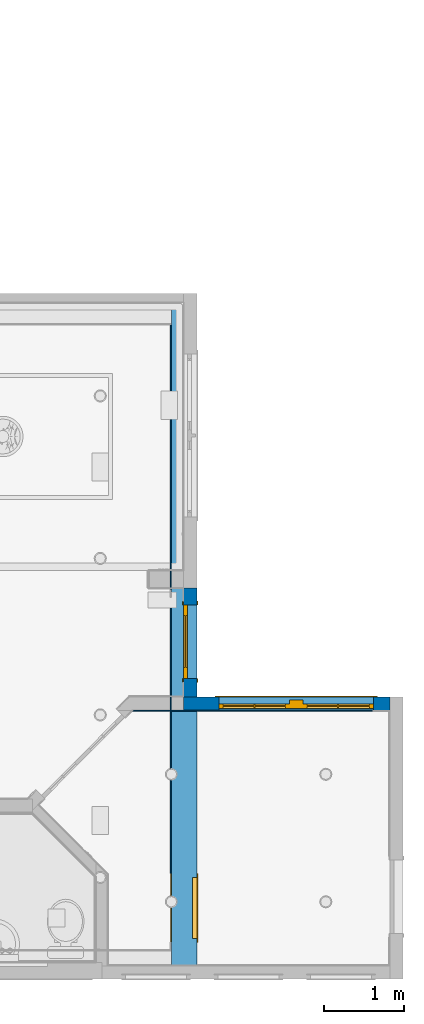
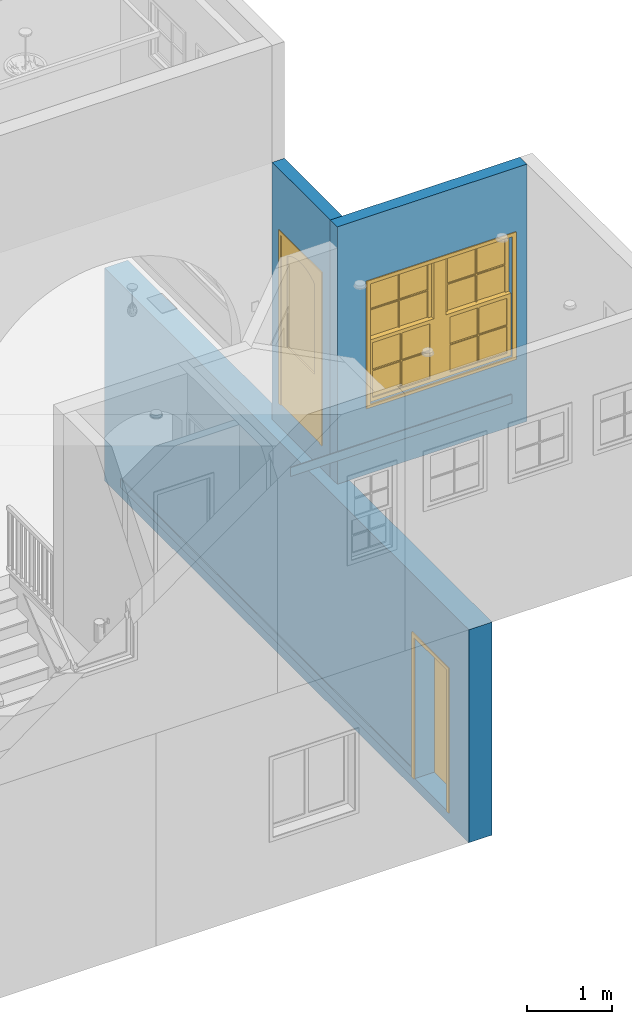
# One storey, part 15 of 81: 5 walls, 2 doors, 1 window, 3 openings.
"""IFC2X3 building model written with IfcOpenShell, lengths in feet."""

from ifc_helpers import new_model, entity, si_unit, converted_unit, derived_unit, direction, frame, frame_2d, origin, origin_2d_with_axis, place, context, subcontext, project, spatial, polyline, circle_curve, parameter, trimmed, segment, composite_curve, rectangle, outline, extrude, source, transform, mapped, material, material_list, layer, layer_set, layer_usage, type_object, type_shapes, element, fill, save


model = new_model("IFC2X3")

# Units and contexts
model_context = context("Model", 3, precision=0.0001, world=origin(), true_north=direction((6.12303176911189e-17, 1.0)))
body_context = subcontext(model_context, "Body", "Model", "MODEL_VIEW")
ifc_project = project(units=[converted_unit("LENGTHUNIT", "FOOT", entity("IfcRatioMeasure", 0.3048), si_unit("LENGTHUNIT", "METRE"), dimensions=[1, 0, 0, 0, 0, 0, 0]), converted_unit("AREAUNIT", "SQUARE FOOT", entity("IfcRatioMeasure", 0.09290304), si_unit("AREAUNIT", "SQUARE_METRE"), dimensions=[2, 0, 0, 0, 0, 0, 0]), converted_unit("VOLUMEUNIT", "CUBIC FOOT", entity("IfcRatioMeasure", 0.028316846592), si_unit("VOLUMEUNIT", "CUBIC_METRE"), dimensions=[3, 0, 0, 0, 0, 0, 0]), converted_unit("PLANEANGLEUNIT", "DEGREE", entity("IfcRatioMeasure", 0.0174532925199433), si_unit("PLANEANGLEUNIT", "RADIAN"), dimensions=[0, 0, 0, 0, 0, 0, 0]), si_unit("MASSUNIT", "GRAM", prefix="KILO"), derived_unit("MASSDENSITYUNIT", [(si_unit("MASSUNIT", "GRAM", prefix="KILO"), 1), (si_unit("LENGTHUNIT", "METRE"), -3)]), derived_unit("MOMENTOFINERTIAUNIT", [(si_unit("LENGTHUNIT", "METRE"), 4)]), si_unit("TIMEUNIT", "SECOND"), si_unit("FREQUENCYUNIT", "HERTZ"), si_unit("THERMODYNAMICTEMPERATUREUNIT", "DEGREE_CELSIUS"), derived_unit("THERMALTRANSMITTANCEUNIT", [(si_unit("MASSUNIT", "GRAM", prefix="KILO"), 1), (si_unit("THERMODYNAMICTEMPERATUREUNIT", "KELVIN"), -1), (si_unit("TIMEUNIT", "SECOND"), -3)]), derived_unit("VOLUMETRICFLOWRATEUNIT", [(si_unit("LENGTHUNIT", "METRE"), 3), (si_unit("TIMEUNIT", "SECOND"), -1)]), si_unit("ELECTRICCURRENTUNIT", "AMPERE"), si_unit("ELECTRICVOLTAGEUNIT", "VOLT"), si_unit("POWERUNIT", "WATT"), si_unit("FORCEUNIT", "NEWTON"), si_unit("ILLUMINANCEUNIT", "LUX"), si_unit("LUMINOUSFLUXUNIT", "LUMEN"), si_unit("LUMINOUSINTENSITYUNIT", "CANDELA"), derived_unit("USERDEFINED", [(si_unit("MASSUNIT", "GRAM", prefix="KILO"), -1), (si_unit("LENGTHUNIT", "METRE"), -2), (si_unit("TIMEUNIT", "SECOND"), 3), (si_unit("LUMINOUSFLUXUNIT", "LUMEN"), 1)]), derived_unit("LINEARVELOCITYUNIT", [(si_unit("LENGTHUNIT", "METRE"), 1), (si_unit("TIMEUNIT", "SECOND"), -1)]), si_unit("PRESSUREUNIT", "PASCAL"), derived_unit("USERDEFINED", [(si_unit("LENGTHUNIT", "METRE"), -2), (si_unit("MASSUNIT", "GRAM", prefix="KILO"), 1), (si_unit("TIMEUNIT", "SECOND"), -2)]), derived_unit("LINEARFORCEUNIT", [(si_unit("MASSUNIT", "GRAM", prefix="KILO"), 1), (si_unit("LENGTHUNIT", "METRE"), 1), (si_unit("TIMEUNIT", "SECOND"), -2), (si_unit("LENGTHUNIT", "METRE"), -1)]), derived_unit("PLANARFORCEUNIT", [(si_unit("MASSUNIT", "GRAM", prefix="KILO"), 1), (si_unit("LENGTHUNIT", "METRE"), 1), (si_unit("TIMEUNIT", "SECOND"), -2), (si_unit("LENGTHUNIT", "METRE"), -2)])], contexts=[model_context])

# Site, building, storey
site_placement = place(None, origin())
site = spatial("IfcSite", under=ifc_project, at=site_placement, Name="Default", CompositionType="ELEMENT")
building_placement = place(site_placement, origin())
building = spatial("IfcBuilding", under=site, at=building_placement, CompositionType="ELEMENT")
storey_placement = place(building_placement, origin())
storey = spatial("IfcBuildingStorey", under=building, at=storey_placement, Name="First floor", CompositionType="ELEMENT", Elevation=0.0)

# Wall, opening, window
ifc_material_1 = material(Name="Default New Material")
ifc_layer_1 = layer(ifc_material_1, 0.541666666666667)
ifc_layer_set_1 = layer_set([ifc_layer_1], Name="Basic Wall:Wall_6.5\"")
ifc_layer_usage_1 = layer_usage(ifc_layer_set_1, "AXIS2", "POSITIVE", -0.270833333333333)
wall_type_1 = type_object("IfcWallType", Name="Basic Wall:Wall_6.5\"", PredefinedType="STANDARD", material=ifc_layer_set_1)
wall_1_placement = place(storey_placement, frame((43.5833333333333, 11.2916666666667, 9.54166666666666), z_axis=(0.0, 0.0, 1.0), x_axis=(-1.0, 0.0, 0.0)))
wall_1 = element("IfcWallStandardCase", 1, at=wall_1_placement, inside=storey, type_object=wall_type_1, material=ifc_layer_usage_1, Name="Basic Wall:Wall_6.5\"", ObjectType="Basic Wall:Wall_6.5\"", context=body_context, shape_type="SweptSolid", body=[
    extrude(rectangle(XDim=8.45833333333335, YDim=0.541666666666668, at=frame_2d((4.22916666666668, 2.77555756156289e-17), x_axis=(-1.0, 0.0))), origin(), (0.0, 0.0, 1.0), 12.125),
])
opening_1_placement = place(wall_1_placement, frame((7.0, 0.270833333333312, 3.29166666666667)))
opening_1 = element("IfcOpeningElement", 2, at=opening_1_placement, cuts=wall_1, Name="Window_11:6'-4\" X 5'-8\":1", ObjectType="Opening", context=body_context, shape_type="SweptSolid", body=[
    extrude(rectangle(XDim=5.66666666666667, YDim=6.33333333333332, at=frame_2d((2.83333333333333, 3.16666666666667), x_axis=(-1.0, 0.0))), frame((0.0, 0.0, 0.0), z_axis=(0.0, -1.0, 0.0), x_axis=(0.0, 0.0, 1.0)), (0.0, 0.0, 1.0), 0.541666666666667),
])
ifc_material_2 = material(Name="Glass")
ifc_material_list_1 = material_list([ifc_material_2, ifc_material_1])
ifc_material_3 = material(Name="Sash")
ifc_material_list_2 = material_list([ifc_material_1, ifc_material_2, ifc_material_1, ifc_material_3])
window_style = type_object("IfcWindowStyle", Name="Window_11:6'-4\" X 5'-8\"", ConstructionType="NOTDEFINED", OperationType="NOTDEFINED", ParameterTakesPrecedence=False, Sizeable=False, material=ifc_material_list_2)
shared_shape_1 = source(origin(), body_context, "Body", "SweptSolid", [
    extrude(rectangle(XDim=1.26041666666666, YDim=0.0435871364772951, at=frame_2d((1.11022302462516e-16, 0.0), x_axis=(1.0, 0.0))), frame((5.53645833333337, 0.334293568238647, 4.23437499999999)), (0.0, 0.0, 1.0), 1.26562500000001),
    extrude(rectangle(XDim=1.26041666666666, YDim=0.0435871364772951, at=frame_2d((2.22044604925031e-16, 0.0), x_axis=(1.0, 0.0))), frame((0.796875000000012, 0.334293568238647, 4.234375)), (0.0, 0.0, 1.0), 1.26562500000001),
    extrude(rectangle(XDim=1.26041666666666, YDim=0.0435871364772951, at=origin_2d_with_axis()), frame((2.09895833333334, 0.334293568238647, 4.23437499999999)), (0.0, 0.0, 1.0), 1.26562500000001),
    extrude(rectangle(XDim=1.26041666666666, YDim=0.0435871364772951, at=origin_2d_with_axis()), frame((4.23437500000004, 0.334293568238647, 4.23437499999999)), (0.0, 0.0, 1.0), 1.26562500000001),
    extrude(rectangle(XDim=1.26041666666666, YDim=0.0435871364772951, at=frame_2d((1.11022302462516e-16, 0.0), x_axis=(1.0, 0.0))), frame((5.53645833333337, 0.334293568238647, 2.92708333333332)), (0.0, 0.0, 1.0), 1.265625),
    extrude(rectangle(XDim=1.26041666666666, YDim=0.0435871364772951, at=origin_2d_with_axis()), frame((0.796875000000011, 0.334293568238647, 2.92708333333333)), (0.0, 0.0, 1.0), 1.265625),
    extrude(rectangle(XDim=1.26041666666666, YDim=0.0435871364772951, at=origin_2d_with_axis()), frame((2.09895833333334, 0.334293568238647, 2.92708333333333)), (0.0, 0.0, 1.0), 1.265625),
    extrude(rectangle(XDim=1.26041666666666, YDim=0.0435871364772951, at=origin_2d_with_axis()), frame((4.23437500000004, 0.334293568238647, 2.92708333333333)), (0.0, 0.0, 1.0), 1.265625),
    extrude(outline(polyline([(-1.45312500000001, -1.44791666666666), (1.45312500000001, -1.44791666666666), (1.45312500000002, 1.44791666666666), (-1.45312500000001, 1.44791666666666), (-1.45312500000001, -1.44791666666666)]), holes=[polyline([(-0.020833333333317, -0.0208333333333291), (-0.0208333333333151, -1.28124999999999), (-1.28645833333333, -1.28124999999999), (-1.28645833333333, -0.0208333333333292), (-0.020833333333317, -0.0208333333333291)]), polyline([(-1.28645833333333, 0.0208333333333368), (-1.28645833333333, 1.28125), (-0.020833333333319, 1.28125), (-0.0208333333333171, 0.020833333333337), (-1.28645833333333, 0.0208333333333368)]), polyline([(1.28645833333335, 0.0208333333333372), (0.020833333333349, 0.0208333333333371), (0.0208333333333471, 1.28125), (1.28645833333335, 1.28125), (1.28645833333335, 0.0208333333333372)]), polyline([(0.020833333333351, -1.28124999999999), (0.0208333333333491, -0.020833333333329), (1.28645833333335, -0.0208333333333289), (1.28645833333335, -1.28124999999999), (0.020833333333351, -1.28124999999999)])]), frame((4.8854166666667, 0.416666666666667, 4.21354166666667), z_axis=(0.0, -1.0, 0.0), x_axis=(0.0, 0.0, -1.0)), (0.0, 0.0, 1.0), 0.166666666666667),
    extrude(outline(polyline([(-1.44791666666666, -1.45312500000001), (1.44791666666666, -1.45312500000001), (1.44791666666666, 1.45312500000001), (-1.44791666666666, 1.45312500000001), (-1.44791666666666, -1.45312500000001)]), holes=[polyline([(0.020833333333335, -1.28645833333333), (0.020833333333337, -0.0208333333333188), (1.28125, -0.0208333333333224), (1.28125, -1.28645833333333), (0.020833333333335, -1.28645833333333)]), polyline([(0.0208333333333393, 1.28645833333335), (1.28125, 1.28645833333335), (1.28125, 0.0208333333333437), (0.0208333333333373, 0.0208333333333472), (0.0208333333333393, 1.28645833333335)]), polyline([(-1.28124999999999, 0.0208333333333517), (-1.28124999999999, 1.28645833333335), (-0.0208333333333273, 1.28645833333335), (-0.0208333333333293, 0.0208333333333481), (-1.28124999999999, 0.0208333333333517)]), polyline([(-0.0208333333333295, -0.0208333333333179), (-0.0208333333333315, -1.28645833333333), (-1.28125, -1.28645833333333), (-1.28124999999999, -0.0208333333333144), (-0.0208333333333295, -0.0208333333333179)])]), frame((1.44791666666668, 0.416666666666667, 4.21354166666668), z_axis=(0.0, -1.0, 0.0), x_axis=(-1.0, 0.0, 0.0)), (0.0, 0.0, 1.0), 0.166666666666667),
    extrude(rectangle(XDim=1.26041666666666, YDim=0.0416666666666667, at=origin_2d_with_axis()), frame((5.53645833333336, 0.166666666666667, 1.47395833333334), z_axis=(0.0, 0.0, 1.0), x_axis=(-1.0, 0.0, 0.0)), (0.0, 0.0, 1.0), 1.28645833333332),
    extrude(rectangle(XDim=1.26041666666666, YDim=0.0416666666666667, at=origin_2d_with_axis()), frame((0.796875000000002, 0.166666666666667, 0.166666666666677), z_axis=(0.0, 0.0, 1.0), x_axis=(-1.0, 0.0, 0.0)), (0.0, 0.0, 1.0), 1.265625),
    extrude(rectangle(XDim=1.26041666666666, YDim=0.0416666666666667, at=origin_2d_with_axis()), frame((2.09895833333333, 0.166666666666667, 0.166666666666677), z_axis=(0.0, 0.0, 1.0), x_axis=(-1.0, 0.0, 0.0)), (0.0, 0.0, 1.0), 1.265625),
    extrude(rectangle(XDim=1.26041666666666, YDim=0.0416666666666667, at=origin_2d_with_axis()), frame((5.53645833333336, 0.166666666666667, 0.16666666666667), z_axis=(0.0, 0.0, 1.0), x_axis=(-1.0, 0.0, 0.0)), (0.0, 0.0, 1.0), 1.265625),
    extrude(rectangle(XDim=1.26041666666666, YDim=0.0416666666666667, at=origin_2d_with_axis()), frame((4.23437500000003, 0.166666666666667, 0.166666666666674), z_axis=(0.0, 0.0, 1.0), x_axis=(-1.0, 0.0, 0.0)), (0.0, 0.0, 1.0), 1.265625),
    extrude(rectangle(XDim=1.26041666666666, YDim=0.0416666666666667, at=frame_2d((-2.22044604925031e-16, 0.0), x_axis=(1.0, 0.0))), frame((0.796875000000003, 0.166666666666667, 1.47395833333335), z_axis=(0.0, 0.0, 1.0), x_axis=(-1.0, 0.0, 0.0)), (0.0, 0.0, 1.0), 1.28645833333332),
    extrude(rectangle(XDim=1.26041666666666, YDim=0.0416666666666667, at=origin_2d_with_axis()), frame((2.09895833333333, 0.166666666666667, 1.47395833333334), z_axis=(0.0, 0.0, 1.0), x_axis=(-1.0, 0.0, 0.0)), (0.0, 0.0, 1.0), 1.28645833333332),
    extrude(rectangle(XDim=1.26041666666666, YDim=0.0416666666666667, at=origin_2d_with_axis()), frame((4.23437500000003, 0.166666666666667, 1.47395833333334), z_axis=(0.0, 0.0, 1.0), x_axis=(-1.0, 0.0, 0.0)), (0.0, 0.0, 1.0), 1.28645833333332),
    extrude(outline(polyline([(-1.46354166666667, -1.44791666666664), (1.46354166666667, -1.44791666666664), (1.46354166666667, 1.44791666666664), (-1.46354166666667, 1.44791666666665), (-1.46354166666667, -1.44791666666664)]), holes=[polyline([(-1.29687499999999, -0.0208333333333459), (-0.0312499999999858, -0.0208333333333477), (-0.0312499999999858, -1.28125000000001), (-1.29687499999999, -1.28125), (-1.29687499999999, -0.0208333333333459)]), polyline([(-0.0312499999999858, 1.28124999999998), (-0.0312499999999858, 0.0208333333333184), (-1.29687499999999, 0.0208333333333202), (-1.29687499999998, 1.28124999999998), (-0.0312499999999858, 1.28124999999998)]), polyline([(1.296875, -0.0208333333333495), (1.296875, -1.28125000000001), (0.0104166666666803, -1.28125000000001), (0.0104166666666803, -0.0208333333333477), (1.296875, -0.0208333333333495)]), polyline([(0.0104166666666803, 0.0208333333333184), (0.0104166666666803, 1.28124999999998), (1.296875, 1.28124999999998), (1.296875, 0.0208333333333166), (0.0104166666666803, 0.0208333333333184)])]), frame((4.88541666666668, 0.25, 1.46354166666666), z_axis=(0.0, -1.0, 0.0), x_axis=(0.0, 0.0, 1.0)), (0.0, 0.0, 1.0), 0.166666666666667),
    extrude(outline(polyline([(-1.44791666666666, -1.46354166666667), (1.44791666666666, -1.46354166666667), (1.44791666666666, 1.46354166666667), (-1.44791666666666, 1.46354166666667), (-1.44791666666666, -1.46354166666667)]), holes=[polyline([(0.0208333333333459, 1.29687499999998), (1.28125, 1.29687499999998), (1.28125, 0.031249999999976), (0.0208333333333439, 0.0312499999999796), (0.0208333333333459, 1.29687499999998)]), polyline([(0.0208333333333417, -1.29687500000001), (0.0208333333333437, -0.0104166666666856), (1.28125, -0.0104166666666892), (1.28125, -1.29687500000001), (0.0208333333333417, -1.29687500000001)]), polyline([(-1.28124999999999, 0.031249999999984), (-1.28124999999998, 1.29687499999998), (-0.0208333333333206, 1.29687499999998), (-0.0208333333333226, 0.0312499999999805), (-1.28124999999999, 0.031249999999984)]), polyline([(-0.0208333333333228, -0.0104166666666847), (-0.0208333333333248, -1.29687500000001), (-1.28124999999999, -1.29687500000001), (-1.28124999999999, -0.0104166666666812), (-0.0208333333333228, -0.0104166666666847)])]), frame((1.44791666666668, 0.25, 1.46354166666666), z_axis=(0.0, -1.0, 0.0), x_axis=(-1.0, 0.0, 0.0)), (0.0, 0.0, 1.0), 0.166666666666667),
    extrude(outline(polyline([(-3.33333333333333, -3.0), (3.33333333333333, -3.0), (3.33333333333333, 3.0), (-3.33333333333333, 3.0), (-3.33333333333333, -3.0)]), holes=[polyline([(-3.16666666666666, -2.83333333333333), (-3.16666666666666, 2.83333333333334), (3.16666666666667, 2.83333333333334), (3.16666666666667, -2.83333333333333), (-3.16666666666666, -2.83333333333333)])]), frame((3.16666666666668, 0.0, 2.83333333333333), z_axis=(0.0, -1.0, 0.0), x_axis=(1.0, 0.0, 0.0)), (0.0, 0.0, 1.0), 0.0416666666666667),
    extrude(outline(polyline([(-3.33333333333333, -3.0), (3.33333333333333, -3.0), (3.33333333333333, 3.0), (-3.33333333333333, 3.0), (-3.33333333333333, -3.0)]), holes=[polyline([(-3.16666666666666, -2.83333333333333), (-3.16666666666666, 2.83333333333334), (3.16666666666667, 2.83333333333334), (3.16666666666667, -2.83333333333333), (-3.16666666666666, -2.83333333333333)])]), frame((3.16666666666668, 0.583333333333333, 2.83333333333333), z_axis=(0.0, -1.0, 0.0), x_axis=(1.0, 0.0, 0.0)), (0.0, 0.0, 1.0), 0.0416666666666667),
    extrude(rectangle(XDim=0.541666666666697, YDim=0.333333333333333, at=origin_2d_with_axis()), frame((3.16666666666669, 0.25, 0.0), z_axis=(0.0, 0.0, 1.0), x_axis=(-1.0, 0.0, 0.0)), (0.0, 0.0, 1.0), 5.6666666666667),
])
type_shapes(window_style, [shared_shape_1])
window_placement = place(opening_1_placement, frame((0.0, 0.0, 0.0), z_axis=(0.0, 0.0, 1.0), x_axis=(-1.0, 0.0, 0.0)))
window = element("IfcWindow", 3, at=window_placement, inside=storey, type_object=window_style, material=ifc_material_list_1, Name="Window_11:6'-4\" X 5'-8\"", ObjectType="Window_11:6'-4\" X 5'-8\"", OverallHeight=5.66666666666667, OverallWidth=6.33333333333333, context=body_context, shape_type="MappedRepresentation", body=[
    mapped(shared_shape_1, transform((0.0, 0.0, 0.0), scale=1.0)),
])
fill(opening_1, window)

# Wall, opening, door
ifc_layer_usage_2 = layer_usage(ifc_layer_set_1, "AXIS2", "POSITIVE", -0.270833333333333)
wall_2_placement = place(storey_placement, frame((35.3958333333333, 11.5625, 9.54166666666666), z_axis=(0.0, 0.0, 1.0), x_axis=(0.0, 1.0, 0.0)))
wall_2 = element("IfcWallStandardCase", 4, at=wall_2_placement, inside=storey, type_object=wall_type_1, material=ifc_layer_usage_2, Name="Basic Wall:Wall_6.5\"", ObjectType="Basic Wall:Wall_6.5\"", context=body_context, shape_type="SweptSolid", body=[
    extrude(rectangle(XDim=4.47916700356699, YDim=0.541666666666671, at=frame_2d((2.2395835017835, -1.94289029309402e-16), x_axis=(-1.0, 0.0))), origin(), (0.0, 0.0, 1.0), 12.125),
])
opening_2_placement = place(wall_2_placement, frame((0.7708333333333, -0.270833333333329, 1.125)))
opening_2 = element("IfcOpeningElement", 5, at=opening_2_placement, cuts=wall_2, Name="Door_6:3'-0\" X 8'-0\":1", ObjectType="Opening", context=body_context, shape_type="SweptSolid", body=[
    extrude(rectangle(XDim=8.00000000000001, YDim=3.0, at=frame_2d((4.0, 1.5), x_axis=(1.0, 0.0))), frame((0.0, 0.0, 0.0), z_axis=(0.0, 1.0, 0.0), x_axis=(0.0, 0.0, 1.0)), (0.0, 0.0, 1.0), 0.541666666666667),
])
ifc_material_list_3 = material_list([ifc_material_2, ifc_material_1])
ifc_material_list_4 = material_list([ifc_material_1, ifc_material_1, ifc_material_2])
door_style_1 = type_object("IfcDoorStyle", Name="Door_6:3'-0\" X 8'-0\"", ConstructionType="NOTDEFINED", OperationType="SINGLE_SWING_LEFT", ParameterTakesPrecedence=False, Sizeable=False, material=ifc_material_list_4)
shared_shape_2 = source(origin(), body_context, "Body", "SweptSolid", [
    extrude(outline(composite_curve([segment(polyline([(-2.12500000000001, -1.07291666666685), (2.12500000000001, -1.07291666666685)]), True, "CONTINUOUS"), segment(polyline([(2.12500000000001, -1.07291666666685), (2.12500000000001, 1.07291666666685)]), True, "CONTINUOUS"), segment(polyline([(2.12500000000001, 1.07291666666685), (-2.12500000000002, 1.07291666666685)]), True, "CONTINUOUS"), segment(trimmed(circle_curve(frame_2d((-0.648274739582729, 0.0), x_axis=(0.0, 1.0)), 1.82534042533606), [parameter(53.9996708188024)], [parameter(126.000329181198)], True, "PARAMETER"), True, "CONTINUOUS")], self_intersect=False)), frame((1.51041666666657, 0.458333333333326, 5.12500000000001), z_axis=(0.0, -1.0, 0.0), x_axis=(0.0, 0.0, -1.0)), (0.0, 0.0, 1.0), 0.0416666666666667),
    extrude(outline(polyline([(-4.04166666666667, -1.49999999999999), (-4.04166666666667, -1.66666666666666), (4.12500000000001, -1.66666666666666), (4.12500000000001, 1.66666666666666), (-4.04166666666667, 1.66666666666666), (-4.04166666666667, 1.49999999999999), (3.95833333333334, 1.49999999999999), (3.95833333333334, -1.49999999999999), (-4.04166666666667, -1.49999999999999)])), frame((1.50000000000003, -0.0208333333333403, 4.04166666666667), z_axis=(0.0, 1.0, 0.0), x_axis=(0.0, 0.0, 1.0)), (0.0, 0.0, -1.0), 0.0416666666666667),
    extrude(outline(polyline([(-4.04166666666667, -1.49999999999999), (-4.04166666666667, -1.66666666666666), (4.12500000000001, -1.66666666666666), (4.12500000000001, 1.66666666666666), (-4.04166666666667, 1.66666666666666), (-4.04166666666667, 1.49999999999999), (3.95833333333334, 1.49999999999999), (3.95833333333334, -1.49999999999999), (-4.04166666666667, -1.49999999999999)])), frame((1.50000000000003, 0.562499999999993, 4.04166666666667), z_axis=(0.0, 1.0, 0.0), x_axis=(0.0, 0.0, 1.0)), (0.0, 0.0, -1.0), 0.0416666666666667),
    extrude(outline(polyline([(-1.49999999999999, -4.0), (1.49999999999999, -4.0), (1.49999999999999, 4.0), (-1.49999999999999, 4.0), (-1.49999999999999, -4.0)]), holes=[composite_curve([segment(polyline([(-1.08333333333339, 1.0), (1.06250000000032, 1.0)]), True, "CONTINUOUS"), segment(polyline([(1.06250000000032, 1.0), (1.06250000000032, -3.25000000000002)]), True, "CONTINUOUS"), segment(trimmed(circle_curve(frame_2d((-0.0104166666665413, -1.77327473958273), x_axis=(1.0, 0.0)), 1.82534042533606), [parameter(233.999670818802)], [parameter(306.000329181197)], True, "PARAMETER"), False, "CONTINUOUS"), segment(polyline([(-1.08333333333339, -3.25000000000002), (-1.08333333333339, 1.0)]), True, "CONTINUOUS")], self_intersect=False)]), frame((1.50000000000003, 0.520833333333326, 4.0), z_axis=(0.0, -1.0, 0.0), x_axis=(-1.0, 0.0, 0.0)), (0.0, 0.0, 1.0), 0.166666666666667),
])
type_shapes(door_style_1, [shared_shape_2])
door_1_placement = place(opening_2_placement, frame((0.0, 0.0208333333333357, 0.0)))
door_1 = element("IfcDoor", 6, at=door_1_placement, inside=storey, type_object=door_style_1, material=ifc_material_list_3, Name="Door_6:3'-0\" X 8'-0\"", ObjectType="Door_6:3'-0\" X 8'-0\"", OverallHeight=8.00000000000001, OverallWidth=3.0, context=body_context, shape_type="MappedRepresentation", body=[
    mapped(shared_shape_2, transform((0.0, 0.0, 0.0), scale=1.0)),
])
fill(opening_2, door_1)

ifc_layer_2 = layer(ifc_material_1, 1.04166666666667)
ifc_layer_set_2 = layer_set([ifc_layer_2], Name="Basic Wall:Wall_1'1/2\"")
ifc_layer_usage_3 = layer_usage(ifc_layer_set_2, "AXIS2", "POSITIVE", -0.520833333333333)
wall_type_2 = type_object("IfcWallType", Name="Basic Wall:Wall_1'1/2\"", PredefinedType="STANDARD", material=ifc_layer_set_2)
wall_3_placement = place(storey_placement, frame((35.1458333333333, 0.0, -0.5), z_axis=(0.0, 0.0, 1.0), x_axis=(0.0, 1.0, 0.0)))
wall_3 = element("IfcWallStandardCase", 7, at=wall_3_placement, inside=storey, type_object=wall_type_2, material=ifc_layer_usage_3, Name="Basic Wall:Wall_1'1/2\"", ObjectType="Basic Wall:Wall_1'1/2\"", context=body_context, shape_type="SweptSolid", body=[
    extrude(rectangle(XDim=28.125, YDim=1.04166666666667, at=frame_2d((14.0625, 0.0), x_axis=(-1.0, 0.0))), origin(), (0.0, 0.0, 1.0), 10.0416666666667),
])
opening_3_placement = place(wall_3_placement, frame((4.16666666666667, 0.52083333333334, 0.5)))
opening_3 = element("IfcOpeningElement", 8, at=opening_3_placement, cuts=wall_3, Name="Door_1:2'-6\" X 6'-8\":1", ObjectType="Opening", context=body_context, shape_type="SweptSolid", body=[
    extrude(rectangle(XDim=2.5, YDim=6.66666666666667, at=frame_2d((3.33333333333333, 1.25), x_axis=(0.0, 1.0))), frame((0.0, 0.0, 0.0), z_axis=(0.0, -1.0, 0.0), x_axis=(0.0, 0.0, 1.0)), (0.0, 0.0, 1.0), 1.04166666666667),
])
ifc_material_list_5 = material_list([ifc_material_1, ifc_material_1])
door_style_2 = type_object("IfcDoorStyle", Name="Door_1:2'-6\" X 6'-8\"", ConstructionType="NOTDEFINED", OperationType="SINGLE_SWING_RIGHT", ParameterTakesPrecedence=False, Sizeable=False, material=ifc_material_list_5)
shared_shape_3 = source(origin(), body_context, "Body", "SweptSolid", [
    extrude(outline(polyline([(-1.41666666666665, -3.45833333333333), (1.41666666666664, -3.45833333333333), (1.41666666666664, 3.375), (1.25000000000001, 3.375), (1.25000000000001, -3.29166666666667), (-1.24999999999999, -3.29166666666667), (-1.24999999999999, 3.375), (-1.41666666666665, 3.375), (-1.41666666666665, -3.45833333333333)])), frame((1.24999999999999, 1.04166666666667, 3.375), z_axis=(0.0, 1.0, 0.0), x_axis=(1.0, 0.0, 0.0)), (0.0, 0.0, 1.0), 0.0416666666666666),
    extrude(outline(polyline([(-3.45833333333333, -1.41666666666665), (3.375, -1.41666666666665), (3.375, -1.24999999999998), (-3.29166666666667, -1.24999999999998), (-3.29166666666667, 1.24999999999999), (3.375, 1.24999999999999), (3.375, 1.41666666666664), (-3.45833333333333, 1.41666666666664), (-3.45833333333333, -1.41666666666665)])), frame((1.24999999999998, -0.0416666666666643, 3.375), z_axis=(0.0, 1.0, 0.0), x_axis=(0.0, 0.0, -1.0)), (0.0, 0.0, 1.0), 0.0416666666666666),
    extrude(rectangle(XDim=0.166666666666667, YDim=2.5, at=frame_2d((-2.77555756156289e-17, 0.0), x_axis=(1.0, 0.0))), frame((1.25, 0.958333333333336, 0.0), z_axis=(0.0, 0.0, 1.0), x_axis=(0.0, 1.0, 0.0)), (0.0, 0.0, 1.0), 6.66666666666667),
])
type_shapes(door_style_2, [shared_shape_3])
door_2_placement = place(opening_3_placement, frame((0.0, 0.0, 0.0), z_axis=(0.0, 0.0, 1.0), x_axis=(-1.0, 0.0, 0.0)))
door_2 = element("IfcDoor", 9, at=door_2_placement, inside=storey, type_object=door_style_2, material=ifc_material_1, Name="Door_1:2'-6\" X 6'-8\"", ObjectType="Door_1:2'-6\" X 6'-8\"", OverallHeight=6.66666666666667, OverallWidth=2.5, context=body_context, shape_type="MappedRepresentation", body=[
    mapped(shared_shape_3, transform((0.0, 0.0, 0.0), scale=1.0)),
])
fill(opening_3, door_2)

# Walls
ifc_layer_3 = layer(ifc_material_1, 0.0416666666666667)
ifc_layer_set_3 = layer_set([ifc_layer_3], Name="Basic Wall:Wall Border_T1")
ifc_layer_usage_4 = layer_usage(ifc_layer_set_3, "AXIS2", "POSITIVE", -0.0208333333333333)
wall_type_3 = type_object("IfcWallType", Name="Basic Wall:Wall Border_T1", PredefinedType="STANDARD", material=ifc_layer_set_3)
wall_4_placement = place(storey_placement, frame((34.6041666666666, 26.8333333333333, 0.0), z_axis=(0.0, 0.0, 1.0), x_axis=(0.0, -1.0, 0.0)))
element("IfcWallStandardCase", 10, at=wall_4_placement, inside=storey, type_object=wall_type_3, material=ifc_layer_usage_4, Name="Basic Wall:Wall Border_T1", ObjectType="Basic Wall:Wall Border_T1", context=body_context, shape_type="SweptSolid", body=[
    extrude(rectangle(XDim=22.5, YDim=0.0416666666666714, at=frame_2d((11.25, -1.56125112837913e-17), x_axis=(-1.0, 0.0))), origin(), (0.0, 0.0, 1.0), 0.416666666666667),
])
ifc_layer_usage_5 = layer_usage(ifc_layer_set_3, "AXIS2", "POSITIVE", -0.0208333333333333)
wall_5_placement = place(storey_placement, frame((33.0173287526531, 11.0, 10.6666666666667)))
element("IfcWallStandardCase", 11, at=wall_5_placement, inside=storey, type_object=wall_type_3, material=ifc_layer_usage_5, Name="Basic Wall:Wall Border_T1", ObjectType="Basic Wall:Wall Border_T1", context=body_context, shape_type="SweptSolid", body=[
    extrude(outline(polyline([(9.86490537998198, -0.0208333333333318), (9.86490537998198, 0.0208333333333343), (0.0414289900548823, 0.0208333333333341), (0.0, -0.0208333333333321), (9.86490537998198, -0.0208333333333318)])), origin(), (0.0, 0.0, 1.0), 0.416666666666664),
])

save(model, "model.ifc")
